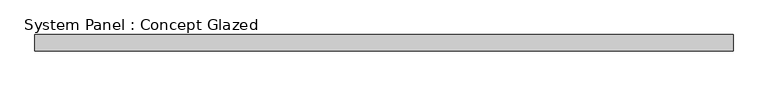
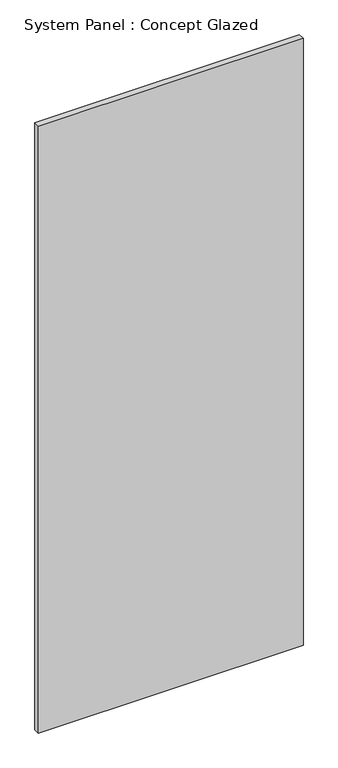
"""IFC4 building model written with IfcOpenShell, lengths in millimetres: plate geometry, System Panel : Concept Glazed."""

import ifcopenshell
import ifcopenshell.guid

model = None  # the IFC model being written
_history = None  # IfcOwnerHistory: only IFC2X3 demands one
_inside = {}  # id of a spatial element -> (the spatial element, [elements in it])
_under = {}  # id of a project, library or spatial element -> (it, [spatial elements below it])
_declared = {}  # id of a project -> (the project, [libraries it declares])
_typed = {}  # id of a type object -> (the type object, [elements of that type])
_made_of = {}  # id of a material, layer set ... -> (it, [elements and type objects made of it])


def new_model(schema):
    """Start an empty IFC model of exactly this schema.

    Asked for "IFC4X3", IfcOpenShell would pick the latest addendum, in which some entities
    have other attributes; the version numbers below select the first issue.
    IFC2X3 requires an IfcOwnerHistory on every rooted entity: one is made here for all.
    """
    global model, _history
    if schema == "IFC4X3":
        model = ifcopenshell.file(schema_version=(4, 3, 0, 0))
    else:
        model = ifcopenshell.file(schema=schema)
    _inside.clear()
    _under.clear()
    _declared.clear()
    _typed.clear()
    _made_of.clear()
    _history = None
    if model.schema == "IFC2X3":
        org = make("IfcOrganization", Name="unknown")
        user = make(
            "IfcPersonAndOrganization",
            ThePerson=make("IfcPerson", FamilyName="unknown"),
            TheOrganization=org,
        )
        app = make(
            "IfcApplication",
            ApplicationDeveloper=org,
            Version="unknown",
            ApplicationFullName="unknown",
            ApplicationIdentifier="unknown",
        )
        _history = make(
            "IfcOwnerHistory",
            OwningUser=user,
            OwningApplication=app,
            ChangeAction="ADDED",
            CreationDate=0,
        )
    return model


def make(cls, **values):
    """One entity of the class cls with the attributes given. An attribute that is None is left unset."""
    return model.create_entity(
        cls, **{name: value for name, value in values.items() if value is not None}
    )


def rooted(cls, **values):
    """An entity with a GlobalId (a new one), such as an element, a storey or a relation."""
    return make(cls, GlobalId=ifcopenshell.guid.new(), OwnerHistory=_history, **values)


def si_unit(unit_type, name, prefix=None):
    """IfcSIUnit, for example si_unit("LENGTHUNIT", "METRE", prefix="MILLI")."""
    return make("IfcSIUnit", UnitType=unit_type, Prefix=prefix, Name=name)


def assignment(units):
    """IfcUnitAssignment: the units of a project."""
    return None if units is None else make("IfcUnitAssignment", Units=units)


def point(xyz):
    """IfcCartesianPoint."""
    return None if xyz is None else make("IfcCartesianPoint", Coordinates=xyz)


def direction(xyz):
    """IfcDirection."""
    return None if xyz is None else make("IfcDirection", DirectionRatios=xyz)


def frame(location, z_axis=None, x_axis=None):
    """IfcAxis2Placement3D, a coordinate frame: its origin and axes. An axis left out is left unset."""
    return make(
        "IfcAxis2Placement3D",
        Location=point(location),
        Axis=direction(z_axis),
        RefDirection=direction(x_axis),
    )


def origin():
    """The frame at (0, 0, 0) with its axes left unset."""
    return frame((0.0, 0.0, 0.0))


def origin_with_axes():
    """The frame at (0, 0, 0) with the z axis (0, 0, 1) and the x axis (1, 0, 0) written out."""
    return frame((0.0, 0.0, 0.0), z_axis=(0.0, 0.0, 1.0), x_axis=(1.0, 0.0, 0.0))


def place(relative_to, where):
    """IfcLocalPlacement: puts the frame where relative to a parent placement (None: the world)."""
    return make(
        "IfcLocalPlacement", PlacementRelTo=relative_to, RelativePlacement=where
    )


def context(
    kind, dimensions, precision=None, world=None, true_north=None, identifier=None
):
    """IfcGeometricRepresentationContext, for example the 3D "Model" context."""
    return make(
        "IfcGeometricRepresentationContext",
        ContextIdentifier=identifier,
        ContextType=kind,
        CoordinateSpaceDimension=dimensions,
        Precision=precision,
        WorldCoordinateSystem=world,
        TrueNorth=true_north,
    )


def project(units=None, contexts=None):
    """IfcProject with its units and contexts."""
    return rooted(
        "IfcProject",
        Name="project",
        RepresentationContexts=contexts,
        UnitsInContext=assignment(units),
    )


def spatial(cls, under=None, at=None, **own):
    """A site, building, storey or space (cls), placed at a placement, below another one or the project."""
    s = rooted(cls, ObjectPlacement=at, **own)
    if under is not None:
        _under.setdefault(under.id(), (under, []))[1].append(s)
    return s


def polyline(points):
    """IfcPolyline through the points."""
    return make("IfcPolyline", Points=[point(p) for p in points])


def outline(outer, holes=None, kind="AREA"):
    """IfcArbitraryClosedProfileDef: a profile drawn as a closed curve; with holes, ...WithVoids."""
    if holes is None:
        return make("IfcArbitraryClosedProfileDef", ProfileType=kind, OuterCurve=outer)
    return make(
        "IfcArbitraryProfileDefWithVoids",
        ProfileType=kind,
        OuterCurve=outer,
        InnerCurves=holes,
    )


def extrude(swept, where, along, depth):
    """IfcExtrudedAreaSolid: the profile swept, set in the frame where, extruded along a direction by depth."""
    return make(
        "IfcExtrudedAreaSolid",
        SweptArea=swept,
        Position=where,
        ExtrudedDirection=direction(along),
        Depth=depth,
    )


def shape(context_of_items, identifier, shape_type, items):
    """IfcShapeRepresentation: the items that make up one representation, for example the "Body"."""
    return make(
        "IfcShapeRepresentation",
        ContextOfItems=context_of_items,
        RepresentationIdentifier=identifier,
        RepresentationType=shape_type,
        Items=items,
    )


def source(mapping_origin, context_of_items, identifier, shape_type, items):
    """IfcRepresentationMap: a shape defined once, which mapped items show again and again."""
    return make(
        "IfcRepresentationMap",
        MappingOrigin=mapping_origin,
        MappedRepresentation=shape(context_of_items, identifier, shape_type, items),
    )


def transform(
    local_origin,
    x_axis=None,
    y_axis=None,
    z_axis=None,
    scale=None,
    scale2=None,
    scale3=None,
    uniform=True,
):
    """IfcCartesianTransformationOperator3D, or its non-uniform kind. x_axis, y_axis, z_axis: its Axis1, 2, 3."""
    if uniform:
        return make(
            "IfcCartesianTransformationOperator3D",
            Axis1=direction(x_axis),
            Axis2=direction(y_axis),
            LocalOrigin=point(local_origin),
            Scale=scale,
            Axis3=direction(z_axis),
        )
    return make(
        "IfcCartesianTransformationOperator3DnonUniform",
        Axis1=direction(x_axis),
        Axis2=direction(y_axis),
        LocalOrigin=point(local_origin),
        Scale=scale,
        Axis3=direction(z_axis),
        Scale2=scale2,
        Scale3=scale3,
    )


def mapped(mapping_source, mapping_target):
    """IfcMappedItem: shows the shape of a source again, moved by a transform."""
    return make(
        "IfcMappedItem", MappingSource=mapping_source, MappingTarget=mapping_target
    )


def made_of(thing, what):
    """Note that an element or type object is made of a material, layer set ...; save() writes the relation."""
    if what is not None:
        _made_of.setdefault(what.id(), (what, []))[1].append(thing)
    return thing


def element(
    cls,
    number,
    at=None,
    inside=None,
    cuts=None,
    type_object=None,
    material=None,
    context=None,
    identifier="Body",
    shape_type=None,
    held_by="IfcProductDefinitionShape",
    body=None,
    shapes=None,
    **own,
):
    """One element of the class cls, such as IfcWall. Its Tag is "e" and its number.

    at: its placement. inside: the storey or other place that contains it. cuts: it is an
    opening in that element (IfcRelVoidsElement). A single representation is given by context,
    identifier, shape_type and body (its items); several are given by shapes. held_by: the class
    of the entity that holds the representations. save() writes the other relations.
    """
    e = rooted(cls, Tag="e%d" % number, ObjectPlacement=at, **own)
    if body is not None:
        shapes = [shape(context, identifier, shape_type, body)]
    if shapes is not None:
        e.Representation = make(held_by, Representations=shapes)
    if inside is not None:
        _inside.setdefault(inside.id(), (inside, []))[1].append(e)
    if cuts is not None:
        rooted(
            "IfcRelVoidsElement", RelatingBuildingElement=cuts, RelatedOpeningElement=e
        )
    if type_object is not None:
        _typed.setdefault(type_object.id(), (type_object, []))[1].append(e)
    return made_of(e, material)


def aggregate(whole, parts):
    """IfcRelAggregates: a whole, such as a stair, and the parts it consists of."""
    return rooted("IfcRelAggregates", RelatingObject=whole, RelatedObjects=parts)


def save(model, path):
    """Write the relations noted so far, then the file.

    IfcRelAggregates (storeys below a building ...), IfcRelContainedInSpatialStructure (elements
    in a storey), IfcRelDefinesByType, IfcRelAssociatesMaterial and IfcRelDeclares: one each for
    every whole, place, type object, material and project.
    """
    for whole, parts in _under.values():
        aggregate(whole, parts)
    for where, things in _inside.values():
        rooted(
            "IfcRelContainedInSpatialStructure",
            RelatedElements=things,
            RelatingStructure=where,
        )
    for kind, things in _typed.values():
        rooted("IfcRelDefinesByType", RelatedObjects=things, RelatingType=kind)
    for what, things in _made_of.values():
        rooted("IfcRelAssociatesMaterial", RelatedObjects=things, RelatingMaterial=what)
    for by, libraries in _declared.values():
        rooted("IfcRelDeclares", RelatingContext=by, RelatedDefinitions=libraries)
    model.write(path)


def system_panel_concept_glazed_32b225e3(model_context):
    return source(origin(), model_context, "Body", "SweptSolid", [
        extrude(outline(polyline([(541.0714286, 27.5), (-541.0714286, 27.5), (-541.0714286, 52.5), (541.0714286, 52.5), (541.0714286, 27.5)])), origin_with_axes(), (0.0, 0.0, 1.0), 2625.0),
    ])


if __name__ == "__main__":
    model = new_model("IFC4")
    model_context = context("Model", 3, world=origin())
    ifc_project = project(units=[si_unit("LENGTHUNIT", "METRE", prefix="MILLI")], contexts=[model_context])
    site = spatial("IfcSite", under=ifc_project)
    building = spatial("IfcBuilding", under=site)
    placement = place(None, origin())
    system_panel_concept_glazed_shape = system_panel_concept_glazed_32b225e3(model_context)
    element("IfcPlate", 1, ObjectType="System Panel : Concept Glazed", at=placement, inside=building, context=model_context, shape_type="MappedRepresentation", body=[
        mapped(system_panel_concept_glazed_shape, transform((0.0, 0.0, 0.0), x_axis=(1.0, 0.0, 0.0), y_axis=(0.0, 1.0, 0.0), z_axis=(0.0, 0.0, 1.0))),
    ])
    save(model, "model.ifc")
